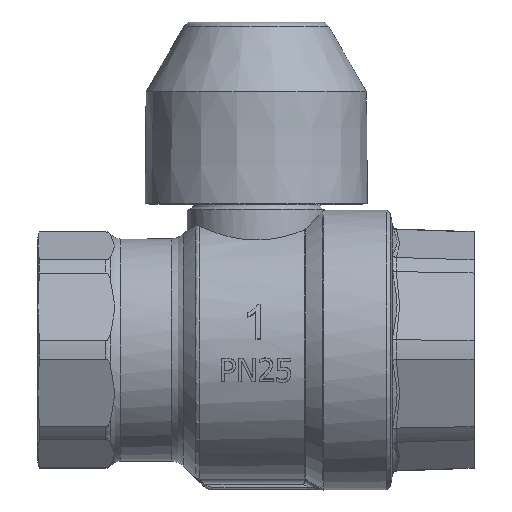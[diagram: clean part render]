
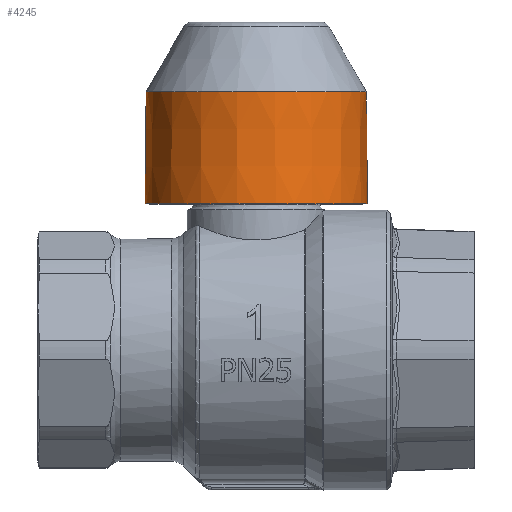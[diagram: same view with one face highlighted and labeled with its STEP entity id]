
A CAD part, top view. The second image highlights one B-rep face of the part: STEP entity #4245.
In plain terms, the highlighted conical face has half-angle 0.5 degrees and reference radius 19.165 mm.
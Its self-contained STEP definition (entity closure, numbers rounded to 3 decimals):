
#4218=CARTESIAN_POINT('',(89.143,134.343,88.078));
#4219=DIRECTION('',(0.,-1.0,0.));
#4220=DIRECTION('',(1.0,0.0,0.0));
#4221=AXIS2_PLACEMENT_3D('',#4218,#4219,#4220);
#4222=CONICAL_SURFACE('',#4221,19.165,0.5);
#4223=CARTESIAN_POINT('',(108.393,124.639,88.078));
#4224=VERTEX_POINT('',#4223);
#4225=CARTESIAN_POINT('',(89.143,124.639,88.078));
#4226=DIRECTION('',(0.0,-1.0,0.0));
#4227=DIRECTION('',(1.0,0.0,0.0));
#4228=AXIS2_PLACEMENT_3D('',#4225,#4226,#4227);
#4229=CIRCLE('',#4228,19.25);
#4230=EDGE_CURVE('',#4224,#4224,#4229,.T.);
#4231=ORIENTED_EDGE('',*,*,#4230,.F.);
#4232=EDGE_LOOP('',(#4231));
#4233=FACE_OUTER_BOUND('',#4232,.T.);
#4234=CARTESIAN_POINT('',(108.224,144.046,88.078));
#4235=VERTEX_POINT('',#4234);
#4236=CARTESIAN_POINT('',(89.143,144.046,88.078));
#4237=DIRECTION('',(0.0,-1.0,0.0));
#4238=DIRECTION('',(1.0,0.0,0.0));
#4239=AXIS2_PLACEMENT_3D('',#4236,#4237,#4238);
#4240=CIRCLE('',#4239,19.081);
#4241=EDGE_CURVE('',#4235,#4235,#4240,.T.);
#4242=ORIENTED_EDGE('',*,*,#4241,.T.);
#4243=EDGE_LOOP('',(#4242));
#4244=FACE_BOUND('',#4243,.T.);
#4245=ADVANCED_FACE('',(#4233,#4244),#4222,.T.);
